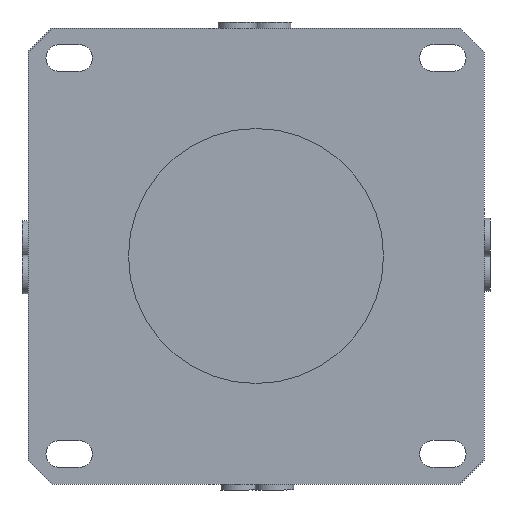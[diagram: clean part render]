
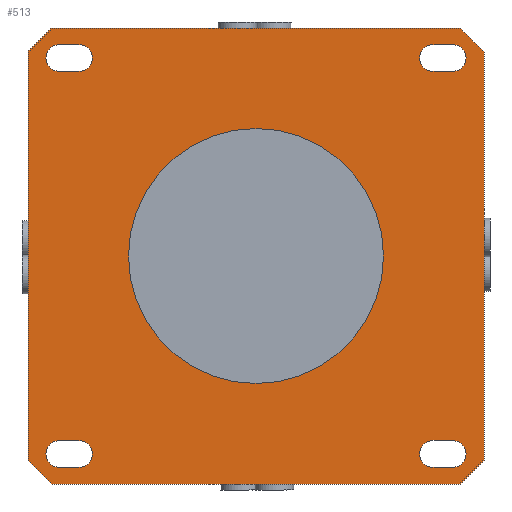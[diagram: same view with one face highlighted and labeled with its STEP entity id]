
A CAD part, front view. The second image highlights one B-rep face of the part: STEP entity #513.
In plain terms, the highlighted planar face has unit normal (0, -1, 0).
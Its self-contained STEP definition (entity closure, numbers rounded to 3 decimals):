
#513=ADVANCED_FACE('',(#841,#842,#843,#844,#845,#846),#730,.T.);
#730=PLANE('',#3753);
#841=FACE_BOUND('',#979,.T.);
#842=FACE_BOUND('',#980,.T.);
#843=FACE_BOUND('',#981,.T.);
#844=FACE_BOUND('',#982,.T.);
#845=FACE_BOUND('',#983,.T.);
#846=FACE_BOUND('',#984,.T.);
#979=EDGE_LOOP('',(#1800,#1801,#1802,#1803));
#980=EDGE_LOOP('',(#1804,#1805,#1806,#1807));
#981=EDGE_LOOP('',(#1808,#1809,#1810,#1811));
#982=EDGE_LOOP('',(#1812,#1813,#1814,#1815));
#983=EDGE_LOOP('',(#1816));
#984=EDGE_LOOP('',(#1817,#1818,#1819,#1820,#1821,#1822,#1823,#1824));
#1279=LINE('',#5316,#1535);
#1280=LINE('',#5320,#1536);
#1281=LINE('',#5324,#1537);
#1282=LINE('',#5328,#1538);
#1283=LINE('',#5332,#1539);
#1284=LINE('',#5336,#1540);
#1285=LINE('',#5340,#1541);
#1286=LINE('',#5344,#1542);
#1287=LINE('',#5347,#1543);
#1288=LINE('',#5350,#1544);
#1289=LINE('',#5352,#1545);
#1290=LINE('',#5354,#1546);
#1291=LINE('',#5356,#1547);
#1292=LINE('',#5358,#1548);
#1293=LINE('',#5360,#1549);
#1294=LINE('',#5362,#1550);
#1535=VECTOR('',#4197,1.);
#1536=VECTOR('',#4200,1.);
#1537=VECTOR('',#4203,1.);
#1538=VECTOR('',#4206,1.);
#1539=VECTOR('',#4209,1.);
#1540=VECTOR('',#4212,1.);
#1541=VECTOR('',#4215,1.);
#1542=VECTOR('',#4218,1.);
#1543=VECTOR('',#4221,1.);
#1544=VECTOR('',#4222,1.);
#1545=VECTOR('',#4223,1.);
#1546=VECTOR('',#4224,1.);
#1547=VECTOR('',#4225,1.);
#1548=VECTOR('',#4226,1.);
#1549=VECTOR('',#4227,1.);
#1550=VECTOR('',#4228,1.);
#1800=ORIENTED_EDGE('',*,*,#3082,.F.);
#1801=ORIENTED_EDGE('',*,*,#3083,.F.);
#1802=ORIENTED_EDGE('',*,*,#3084,.F.);
#1803=ORIENTED_EDGE('',*,*,#3085,.F.);
#1804=ORIENTED_EDGE('',*,*,#3086,.F.);
#1805=ORIENTED_EDGE('',*,*,#3087,.F.);
#1806=ORIENTED_EDGE('',*,*,#3088,.F.);
#1807=ORIENTED_EDGE('',*,*,#3089,.F.);
#1808=ORIENTED_EDGE('',*,*,#3090,.F.);
#1809=ORIENTED_EDGE('',*,*,#3091,.F.);
#1810=ORIENTED_EDGE('',*,*,#3092,.F.);
#1811=ORIENTED_EDGE('',*,*,#3093,.F.);
#1812=ORIENTED_EDGE('',*,*,#3094,.F.);
#1813=ORIENTED_EDGE('',*,*,#3095,.F.);
#1814=ORIENTED_EDGE('',*,*,#3096,.F.);
#1815=ORIENTED_EDGE('',*,*,#3097,.F.);
#1816=ORIENTED_EDGE('',*,*,#3098,.F.);
#1817=ORIENTED_EDGE('',*,*,#3099,.T.);
#1818=ORIENTED_EDGE('',*,*,#3100,.T.);
#1819=ORIENTED_EDGE('',*,*,#3101,.T.);
#1820=ORIENTED_EDGE('',*,*,#3102,.T.);
#1821=ORIENTED_EDGE('',*,*,#3103,.T.);
#1822=ORIENTED_EDGE('',*,*,#3104,.T.);
#1823=ORIENTED_EDGE('',*,*,#3105,.T.);
#1824=ORIENTED_EDGE('',*,*,#3106,.T.);
#2740=VERTEX_POINT('',#5314);
#2741=VERTEX_POINT('',#5315);
#2742=VERTEX_POINT('',#5317);
#2743=VERTEX_POINT('',#5319);
#2744=VERTEX_POINT('',#5322);
#2745=VERTEX_POINT('',#5323);
#2746=VERTEX_POINT('',#5325);
#2747=VERTEX_POINT('',#5327);
#2748=VERTEX_POINT('',#5330);
#2749=VERTEX_POINT('',#5331);
#2750=VERTEX_POINT('',#5333);
#2751=VERTEX_POINT('',#5335);
#2752=VERTEX_POINT('',#5338);
#2753=VERTEX_POINT('',#5339);
#2754=VERTEX_POINT('',#5341);
#2755=VERTEX_POINT('',#5343);
#2756=VERTEX_POINT('',#5346);
#2757=VERTEX_POINT('',#5348);
#2758=VERTEX_POINT('',#5349);
#2759=VERTEX_POINT('',#5351);
#2760=VERTEX_POINT('',#5353);
#2761=VERTEX_POINT('',#5355);
#2762=VERTEX_POINT('',#5357);
#2763=VERTEX_POINT('',#5359);
#2764=VERTEX_POINT('',#5361);
#3082=EDGE_CURVE('',#2740,#2741,#3536,.T.);
#3083=EDGE_CURVE('',#2742,#2740,#1279,.T.);
#3084=EDGE_CURVE('',#2743,#2742,#3537,.T.);
#3085=EDGE_CURVE('',#2741,#2743,#1280,.T.);
#3086=EDGE_CURVE('',#2744,#2745,#3538,.T.);
#3087=EDGE_CURVE('',#2746,#2744,#1281,.T.);
#3088=EDGE_CURVE('',#2747,#2746,#3539,.T.);
#3089=EDGE_CURVE('',#2745,#2747,#1282,.T.);
#3090=EDGE_CURVE('',#2748,#2749,#3540,.T.);
#3091=EDGE_CURVE('',#2750,#2748,#1283,.T.);
#3092=EDGE_CURVE('',#2751,#2750,#3541,.T.);
#3093=EDGE_CURVE('',#2749,#2751,#1284,.T.);
#3094=EDGE_CURVE('',#2752,#2753,#3542,.T.);
#3095=EDGE_CURVE('',#2754,#2752,#1285,.T.);
#3096=EDGE_CURVE('',#2755,#2754,#3543,.T.);
#3097=EDGE_CURVE('',#2753,#2755,#1286,.T.);
#3098=EDGE_CURVE('',#2756,#2756,#3544,.T.);
#3099=EDGE_CURVE('',#2757,#2758,#1287,.T.);
#3100=EDGE_CURVE('',#2758,#2759,#1288,.T.);
#3101=EDGE_CURVE('',#2759,#2760,#1289,.T.);
#3102=EDGE_CURVE('',#2760,#2761,#1290,.T.);
#3103=EDGE_CURVE('',#2761,#2762,#1291,.T.);
#3104=EDGE_CURVE('',#2762,#2763,#1292,.T.);
#3105=EDGE_CURVE('',#2763,#2764,#1293,.T.);
#3106=EDGE_CURVE('',#2764,#2757,#1294,.T.);
#3536=CIRCLE('',#3744,4.5);
#3537=CIRCLE('',#3745,4.5);
#3538=CIRCLE('',#3746,4.5);
#3539=CIRCLE('',#3747,4.5);
#3540=CIRCLE('',#3748,4.5);
#3541=CIRCLE('',#3749,4.5);
#3542=CIRCLE('',#3750,4.5);
#3543=CIRCLE('',#3751,4.5);
#3544=CIRCLE('',#3752,42.5);
#3744=AXIS2_PLACEMENT_3D('',#5313,#4195,#4196);
#3745=AXIS2_PLACEMENT_3D('',#5318,#4198,#4199);
#3746=AXIS2_PLACEMENT_3D('',#5321,#4201,#4202);
#3747=AXIS2_PLACEMENT_3D('',#5326,#4204,#4205);
#3748=AXIS2_PLACEMENT_3D('',#5329,#4207,#4208);
#3749=AXIS2_PLACEMENT_3D('',#5334,#4210,#4211);
#3750=AXIS2_PLACEMENT_3D('',#5337,#4213,#4214);
#3751=AXIS2_PLACEMENT_3D('',#5342,#4216,#4217);
#3752=AXIS2_PLACEMENT_3D('',#5345,#4219,#4220);
#3753=AXIS2_PLACEMENT_3D('',#5363,#4229,#4230);
#4195=DIRECTION('',(0.,-1.,0.));
#4196=DIRECTION('',(1.,0.,0.));
#4197=DIRECTION('',(-1.,0.,0.));
#4198=DIRECTION('',(0.,-1.,0.));
#4199=DIRECTION('',(1.,0.,0.));
#4200=DIRECTION('',(1.,0.,0.));
#4201=DIRECTION('',(0.,-1.,0.));
#4202=DIRECTION('',(1.,0.,0.));
#4203=DIRECTION('',(-1.,0.,0.));
#4204=DIRECTION('',(0.,-1.,0.));
#4205=DIRECTION('',(1.,0.,0.));
#4206=DIRECTION('',(1.,0.,0.));
#4207=DIRECTION('',(0.,-1.,0.));
#4208=DIRECTION('',(1.,0.,0.));
#4209=DIRECTION('',(-1.,0.,0.));
#4210=DIRECTION('',(0.,-1.,0.));
#4211=DIRECTION('',(1.,0.,0.));
#4212=DIRECTION('',(1.,0.,0.));
#4213=DIRECTION('',(0.,-1.,0.));
#4214=DIRECTION('',(1.,0.,0.));
#4215=DIRECTION('',(-1.,0.,0.));
#4216=DIRECTION('',(0.,-1.,0.));
#4217=DIRECTION('',(1.,0.,0.));
#4218=DIRECTION('',(1.,0.,0.));
#4219=DIRECTION('',(0.,-1.,0.));
#4220=DIRECTION('',(1.,0.,0.));
#4221=DIRECTION('',(0.,0.,-1.));
#4222=DIRECTION('',(0.707,0.,-0.707));
#4223=DIRECTION('',(1.,0.,0.));
#4224=DIRECTION('',(0.707,0.,0.707));
#4225=DIRECTION('',(0.,0.,1.));
#4226=DIRECTION('',(-0.707,0.,0.707));
#4227=DIRECTION('',(-1.,0.,0.));
#4228=DIRECTION('',(-0.707,0.,-0.707));
#4229=DIRECTION('',(0.,-1.,0.));
#4230=DIRECTION('',(0.,0.,-1.));
#5313=CARTESIAN_POINT('',(4187.189,-7873.753,66.));
#5314=CARTESIAN_POINT('',(4187.189,-7873.753,70.5));
#5315=CARTESIAN_POINT('',(4187.189,-7873.753,61.5));
#5316=CARTESIAN_POINT('',(4193.689,-7873.753,70.5));
#5317=CARTESIAN_POINT('',(4193.689,-7873.753,70.5));
#5318=CARTESIAN_POINT('',(4193.689,-7873.753,66.));
#5319=CARTESIAN_POINT('',(4193.689,-7873.753,61.5));
#5320=CARTESIAN_POINT('',(4187.189,-7873.753,61.5));
#5321=CARTESIAN_POINT('',(4187.189,-7873.753,-66.));
#5322=CARTESIAN_POINT('',(4187.189,-7873.753,-61.5));
#5323=CARTESIAN_POINT('',(4187.189,-7873.753,-70.5));
#5324=CARTESIAN_POINT('',(4193.689,-7873.753,-61.5));
#5325=CARTESIAN_POINT('',(4193.689,-7873.753,-61.5));
#5326=CARTESIAN_POINT('',(4193.689,-7873.753,-66.));
#5327=CARTESIAN_POINT('',(4193.689,-7873.753,-70.5));
#5328=CARTESIAN_POINT('',(4187.189,-7873.753,-70.5));
#5329=CARTESIAN_POINT('',(4062.689,-7873.753,66.));
#5330=CARTESIAN_POINT('',(4062.689,-7873.753,70.5));
#5331=CARTESIAN_POINT('',(4062.689,-7873.753,61.5));
#5332=CARTESIAN_POINT('',(4069.189,-7873.753,70.5));
#5333=CARTESIAN_POINT('',(4069.189,-7873.753,70.5));
#5334=CARTESIAN_POINT('',(4069.189,-7873.753,66.));
#5335=CARTESIAN_POINT('',(4069.189,-7873.753,61.5));
#5336=CARTESIAN_POINT('',(4062.689,-7873.753,61.5));
#5337=CARTESIAN_POINT('',(4062.689,-7873.753,-66.));
#5338=CARTESIAN_POINT('',(4062.689,-7873.753,-61.5));
#5339=CARTESIAN_POINT('',(4062.689,-7873.753,-70.5));
#5340=CARTESIAN_POINT('',(4069.189,-7873.753,-61.5));
#5341=CARTESIAN_POINT('',(4069.189,-7873.753,-61.5));
#5342=CARTESIAN_POINT('',(4069.189,-7873.753,-66.));
#5343=CARTESIAN_POINT('',(4069.189,-7873.753,-70.5));
#5344=CARTESIAN_POINT('',(4062.689,-7873.753,-70.5));
#5345=CARTESIAN_POINT('',(4128.189,-7873.753,0.));
#5346=CARTESIAN_POINT('',(4170.689,-7873.753,0.));
#5347=CARTESIAN_POINT('',(4052.189,-7873.753,68.));
#5348=CARTESIAN_POINT('',(4052.189,-7873.753,68.));
#5349=CARTESIAN_POINT('',(4052.189,-7873.753,-68.));
#5350=CARTESIAN_POINT('',(4052.189,-7873.753,-68.));
#5351=CARTESIAN_POINT('',(4060.189,-7873.753,-76.));
#5352=CARTESIAN_POINT('',(4060.189,-7873.753,-76.));
#5353=CARTESIAN_POINT('',(4196.189,-7873.753,-76.));
#5354=CARTESIAN_POINT('',(4196.189,-7873.753,-76.));
#5355=CARTESIAN_POINT('',(4204.189,-7873.753,-68.));
#5356=CARTESIAN_POINT('',(4204.189,-7873.753,-68.));
#5357=CARTESIAN_POINT('',(4204.189,-7873.753,68.));
#5358=CARTESIAN_POINT('',(4204.189,-7873.753,68.));
#5359=CARTESIAN_POINT('',(4196.189,-7873.753,76.));
#5360=CARTESIAN_POINT('',(4196.189,-7873.753,76.));
#5361=CARTESIAN_POINT('',(4060.189,-7873.753,76.));
#5362=CARTESIAN_POINT('',(4060.189,-7873.753,76.));
#5363=CARTESIAN_POINT('',(4128.189,-7873.753,0.));
